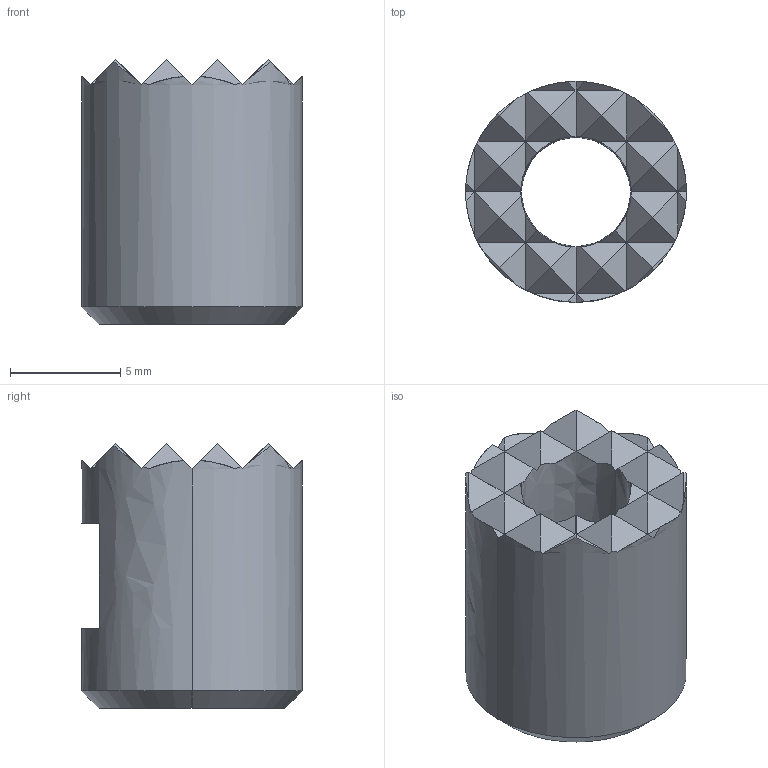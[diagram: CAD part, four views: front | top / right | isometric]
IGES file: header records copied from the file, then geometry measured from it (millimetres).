
Start section: SolidWorks IGES file using analytic representation for surfaces
Global section: file name: X:\11_SW2020-Inv2020\00_全2021-11新製品まで\h\HS-102\hs-102.IGS; native system: SolidWorks 2020; preprocessor: SolidWorks 2020; author: ImaoCorp; date: 211026.101616; units: millimetre
Bounding box: 10 x 10 x 12 mm (x, y, z)
Surface area: 651.9 mm2 (no closed solid volume)
Topology: 0 solids, 0 shells, 84 faces, 478 edges, 478 vertices
Faces by surface type: bspline 76, revolution 8
